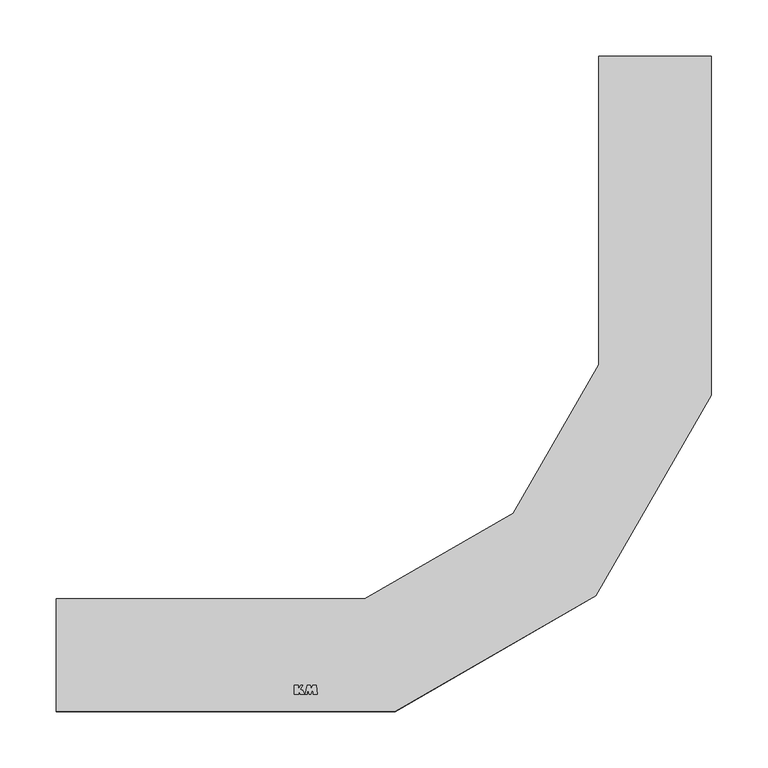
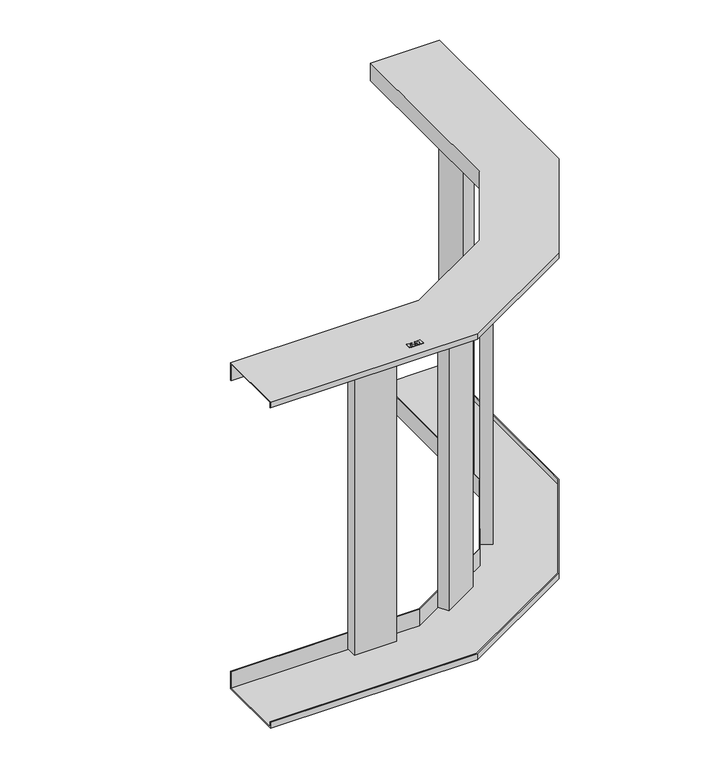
"""IFC4 building model written with IfcOpenShell, lengths in millimetres: cable carrier fitting geometry, КМ Профиль L Угол вертикальный внешний «Быстрый монтаж» : Угол вертикальный внешний «Быстрый монтаж»."""

import ifcopenshell
import ifcopenshell.guid

model = None  # the IFC model being written
_history = None  # IfcOwnerHistory: only IFC2X3 demands one
_inside = {}  # id of a spatial element -> (the spatial element, [elements in it])
_under = {}  # id of a project, library or spatial element -> (it, [spatial elements below it])
_declared = {}  # id of a project -> (the project, [libraries it declares])
_typed = {}  # id of a type object -> (the type object, [elements of that type])
_made_of = {}  # id of a material, layer set ... -> (it, [elements and type objects made of it])


def new_model(schema):
    """Start an empty IFC model of exactly this schema.

    Asked for "IFC4X3", IfcOpenShell would pick the latest addendum, in which some entities
    have other attributes; the version numbers below select the first issue.
    IFC2X3 requires an IfcOwnerHistory on every rooted entity: one is made here for all.
    """
    global model, _history
    if schema == "IFC4X3":
        model = ifcopenshell.file(schema_version=(4, 3, 0, 0))
    else:
        model = ifcopenshell.file(schema=schema)
    _inside.clear()
    _under.clear()
    _declared.clear()
    _typed.clear()
    _made_of.clear()
    _history = None
    if model.schema == "IFC2X3":
        org = make("IfcOrganization", Name="unknown")
        user = make(
            "IfcPersonAndOrganization",
            ThePerson=make("IfcPerson", FamilyName="unknown"),
            TheOrganization=org,
        )
        app = make(
            "IfcApplication",
            ApplicationDeveloper=org,
            Version="unknown",
            ApplicationFullName="unknown",
            ApplicationIdentifier="unknown",
        )
        _history = make(
            "IfcOwnerHistory",
            OwningUser=user,
            OwningApplication=app,
            ChangeAction="ADDED",
            CreationDate=0,
        )
    return model


def make(cls, **values):
    """One entity of the class cls with the attributes given. An attribute that is None is left unset."""
    return model.create_entity(
        cls, **{name: value for name, value in values.items() if value is not None}
    )


def rooted(cls, **values):
    """An entity with a GlobalId (a new one), such as an element, a storey or a relation."""
    return make(cls, GlobalId=ifcopenshell.guid.new(), OwnerHistory=_history, **values)


def si_unit(unit_type, name, prefix=None):
    """IfcSIUnit, for example si_unit("LENGTHUNIT", "METRE", prefix="MILLI")."""
    return make("IfcSIUnit", UnitType=unit_type, Prefix=prefix, Name=name)


def assignment(units):
    """IfcUnitAssignment: the units of a project."""
    return None if units is None else make("IfcUnitAssignment", Units=units)


def point(xyz):
    """IfcCartesianPoint."""
    return None if xyz is None else make("IfcCartesianPoint", Coordinates=xyz)


def direction(xyz):
    """IfcDirection."""
    return None if xyz is None else make("IfcDirection", DirectionRatios=xyz)


def frame(location, z_axis=None, x_axis=None):
    """IfcAxis2Placement3D, a coordinate frame: its origin and axes. An axis left out is left unset."""
    return make(
        "IfcAxis2Placement3D",
        Location=point(location),
        Axis=direction(z_axis),
        RefDirection=direction(x_axis),
    )


def origin():
    """The frame at (0, 0, 0) with its axes left unset."""
    return frame((0.0, 0.0, 0.0))


def place(relative_to, where):
    """IfcLocalPlacement: puts the frame where relative to a parent placement (None: the world)."""
    return make(
        "IfcLocalPlacement", PlacementRelTo=relative_to, RelativePlacement=where
    )


def context(
    kind, dimensions, precision=None, world=None, true_north=None, identifier=None
):
    """IfcGeometricRepresentationContext, for example the 3D "Model" context."""
    return make(
        "IfcGeometricRepresentationContext",
        ContextIdentifier=identifier,
        ContextType=kind,
        CoordinateSpaceDimension=dimensions,
        Precision=precision,
        WorldCoordinateSystem=world,
        TrueNorth=true_north,
    )


def project(units=None, contexts=None):
    """IfcProject with its units and contexts."""
    return rooted(
        "IfcProject",
        Name="project",
        RepresentationContexts=contexts,
        UnitsInContext=assignment(units),
    )


def spatial(cls, under=None, at=None, **own):
    """A site, building, storey or space (cls), placed at a placement, below another one or the project."""
    s = rooted(cls, ObjectPlacement=at, **own)
    if under is not None:
        _under.setdefault(under.id(), (under, []))[1].append(s)
    return s


def polyline(points):
    """IfcPolyline through the points."""
    return make("IfcPolyline", Points=[point(p) for p in points])


def outline(outer, holes=None, kind="AREA"):
    """IfcArbitraryClosedProfileDef: a profile drawn as a closed curve; with holes, ...WithVoids."""
    if holes is None:
        return make("IfcArbitraryClosedProfileDef", ProfileType=kind, OuterCurve=outer)
    return make(
        "IfcArbitraryProfileDefWithVoids",
        ProfileType=kind,
        OuterCurve=outer,
        InnerCurves=holes,
    )


def extrude(swept, where, along, depth):
    """IfcExtrudedAreaSolid: the profile swept, set in the frame where, extruded along a direction by depth."""
    return make(
        "IfcExtrudedAreaSolid",
        SweptArea=swept,
        Position=where,
        ExtrudedDirection=direction(along),
        Depth=depth,
    )


def faces_of(points, faces, orient=None, outer=None):
    """IfcFace entities. A face is a list of loops; a loop is a list of indices into points, from 0.

    orient and outer hold one flag for each loop. By default every Orientation is true, the
    first loop of a face is its IfcFaceOuterBound and the others are IfcFaceBound.
    """
    made = []
    for i, loops in enumerate(faces):
        bounds = []
        for j, loop in enumerate(loops):
            is_outer = j == 0 if outer is None else outer[i][j]
            bounds.append(
                make(
                    "IfcFaceOuterBound" if is_outer else "IfcFaceBound",
                    Bound=make("IfcPolyLoop", Polygon=[points[k] for k in loop]),
                    Orientation=True if orient is None else orient[i][j],
                )
            )
        made.append(make("IfcFace", Bounds=bounds))
    return made


def faceted_brep(points, faces, orient=None, outer=None, voids=None):
    """IfcFacetedBrep: a solid bounded by flat faces; with voids (closed shells), ...WithVoids."""
    shared = [point(p) for p in points]
    hull = make("IfcClosedShell", CfsFaces=faces_of(shared, faces, orient, outer))
    if voids is None:
        return make("IfcFacetedBrep", Outer=hull)
    return make(
        "IfcFacetedBrepWithVoids",
        Outer=hull,
        Voids=[
            make(cls, CfsFaces=faces_of(shared, fs, o, b)) for cls, fs, o, b in voids
        ],
    )


def shape(context_of_items, identifier, shape_type, items):
    """IfcShapeRepresentation: the items that make up one representation, for example the "Body"."""
    return make(
        "IfcShapeRepresentation",
        ContextOfItems=context_of_items,
        RepresentationIdentifier=identifier,
        RepresentationType=shape_type,
        Items=items,
    )


def source(mapping_origin, context_of_items, identifier, shape_type, items):
    """IfcRepresentationMap: a shape defined once, which mapped items show again and again."""
    return make(
        "IfcRepresentationMap",
        MappingOrigin=mapping_origin,
        MappedRepresentation=shape(context_of_items, identifier, shape_type, items),
    )


def transform(
    local_origin,
    x_axis=None,
    y_axis=None,
    z_axis=None,
    scale=None,
    scale2=None,
    scale3=None,
    uniform=True,
):
    """IfcCartesianTransformationOperator3D, or its non-uniform kind. x_axis, y_axis, z_axis: its Axis1, 2, 3."""
    if uniform:
        return make(
            "IfcCartesianTransformationOperator3D",
            Axis1=direction(x_axis),
            Axis2=direction(y_axis),
            LocalOrigin=point(local_origin),
            Scale=scale,
            Axis3=direction(z_axis),
        )
    return make(
        "IfcCartesianTransformationOperator3DnonUniform",
        Axis1=direction(x_axis),
        Axis2=direction(y_axis),
        LocalOrigin=point(local_origin),
        Scale=scale,
        Axis3=direction(z_axis),
        Scale2=scale2,
        Scale3=scale3,
    )


def mapped(mapping_source, mapping_target):
    """IfcMappedItem: shows the shape of a source again, moved by a transform."""
    return make(
        "IfcMappedItem", MappingSource=mapping_source, MappingTarget=mapping_target
    )


def made_of(thing, what):
    """Note that an element or type object is made of a material, layer set ...; save() writes the relation."""
    if what is not None:
        _made_of.setdefault(what.id(), (what, []))[1].append(thing)
    return thing


def element(
    cls,
    number,
    at=None,
    inside=None,
    cuts=None,
    type_object=None,
    material=None,
    context=None,
    identifier="Body",
    shape_type=None,
    held_by="IfcProductDefinitionShape",
    body=None,
    shapes=None,
    **own,
):
    """One element of the class cls, such as IfcWall. Its Tag is "e" and its number.

    at: its placement. inside: the storey or other place that contains it. cuts: it is an
    opening in that element (IfcRelVoidsElement). A single representation is given by context,
    identifier, shape_type and body (its items); several are given by shapes. held_by: the class
    of the entity that holds the representations. save() writes the other relations.
    """
    e = rooted(cls, Tag="e%d" % number, ObjectPlacement=at, **own)
    if body is not None:
        shapes = [shape(context, identifier, shape_type, body)]
    if shapes is not None:
        e.Representation = make(held_by, Representations=shapes)
    if inside is not None:
        _inside.setdefault(inside.id(), (inside, []))[1].append(e)
    if cuts is not None:
        rooted(
            "IfcRelVoidsElement", RelatingBuildingElement=cuts, RelatedOpeningElement=e
        )
    if type_object is not None:
        _typed.setdefault(type_object.id(), (type_object, []))[1].append(e)
    return made_of(e, material)


def aggregate(whole, parts):
    """IfcRelAggregates: a whole, such as a stair, and the parts it consists of."""
    return rooted("IfcRelAggregates", RelatingObject=whole, RelatedObjects=parts)


def save(model, path):
    """Write the relations noted so far, then the file.

    IfcRelAggregates (storeys below a building ...), IfcRelContainedInSpatialStructure (elements
    in a storey), IfcRelDefinesByType, IfcRelAssociatesMaterial and IfcRelDeclares: one each for
    every whole, place, type object, material and project.
    """
    for whole, parts in _under.values():
        aggregate(whole, parts)
    for where, things in _inside.values():
        rooted(
            "IfcRelContainedInSpatialStructure",
            RelatedElements=things,
            RelatingStructure=where,
        )
    for kind, things in _typed.values():
        rooted("IfcRelDefinesByType", RelatedObjects=things, RelatingType=kind)
    for what, things in _made_of.values():
        rooted("IfcRelAssociatesMaterial", RelatedObjects=things, RelatingMaterial=what)
    for by, libraries in _declared.values():
        rooted("IfcRelDeclares", RelatingContext=by, RelatedDefinitions=libraries)
    model.write(path)


def cable_carrier_fitting_8d4a2e80(model_context):
    return source(origin(), model_context, "Body", "SolidModel", [
        extrude(outline(polyline([(-319.2388781, -26.986157), (-315.7316192, -26.986157), (-315.7316192, -30.564509), (-313.8289757, -26.986157), (-311.703011, -26.986157), (-314.1694955, -30.5086619), (-311.9277444, -31.194034), (-310.0604353, -34.737421), (-313.9588467, -34.737421), (-315.6630512, -31.5720802), (-315.6630512, -34.737421), (-319.2388781, -34.737421), (-319.2388781, -26.986157)])), frame((0.0, 0.0, 250.0), z_axis=(0.0, 0.0, 1.0), x_axis=(1.0, 0.0, 0.0)), (0.0, 0.0, 1.0), 0.8),
        extrude(outline(polyline([(-307.9962759, -34.737421), (-309.8943395, -34.737421), (-308.0740589, -26.9647569), (-305.0433304, -26.9647569), (-304.2768297, -30.0390232), (-303.2555223, -26.9623682), (-300.0615674, -26.9623682), (-298.8700699, -34.7429915), (-302.7725105, -34.7429915), (-303.2500032, -30.0541919), (-304.7300717, -34.7434681), (-306.2045824, -34.7434681), (-307.6126012, -30.0696135), (-307.9962759, -34.737421)])), frame((0.0, 0.0, 250.0), z_axis=(0.0, 0.0, 1.0), x_axis=(1.0, 0.0, 0.0)), (0.0, 0.0, 1.0), 0.8),
        extrude(outline(polyline([(-299.5, 48.8), (-299.5, 32.8), (-360.5, 32.8), (-360.5, 48.8), (-299.5, 48.8)])), frame((0.0, 0.0, -247.6), z_axis=(0.0, 0.0, 1.0), x_axis=(1.0, 0.0, 0.0)), (0.0, 0.0, 1.0), 495.2),
        extrude(outline(polyline([(-164.2297817, 102.0568664), (-156.2297817, 88.20046), (-209.0573313, 57.70046), (-217.0573313, 71.5568664), (-164.2297817, 102.0568664)])), frame((0.0, 0.0, -247.6), z_axis=(0.0, 0.0, 1.0), x_axis=(1.0, 0.0, 0.0)), (0.0, 0.0, 1.0), 495.2),
        extrude(outline(polyline([(-57.70046, 209.0573313), (-88.20046, 156.2297817), (-102.0568664, 164.2297817), (-71.5568664, 217.0573313), (-57.70046, 209.0573313)])), frame((0.0, 0.0, -247.6), z_axis=(0.0, 0.0, 1.0), x_axis=(1.0, 0.0, 0.0)), (0.0, 0.0, 1.0), 495.2),
        extrude(outline(polyline([(-32.8, 360.5), (-32.8, 299.5), (-48.8, 299.5), (-48.8, 360.5), (-32.8, 360.5)])), frame((0.0, 0.0, -247.6), z_axis=(0.0, 0.0, 1.0), x_axis=(1.0, 0.0, 0.0)), (0.0, 0.0, 1.0), 495.2),
        faceted_brep([(-530.0, -50.0, 250.0), (-530.0, 50.0, 250.0), (-530.0, 50.0, 223.0), (-530.0, 48.8, 223.0), (-530.0, 48.8, 248.8), (-530.0, -48.8, 248.8), (-530.0, -48.8, 241.0), (-530.0, -50.0, 241.0), (-230.0, -50.0, 250.0), (-52.4871131, 52.4871131, 250.0), (50.0, 230.0, 250.0), (50.0, 530.0, 250.0), (-50.0, 530.0, 250.0), (-50.0, 256.7949192, 250.0), (-125.6921938, 125.6921938, 250.0), (-256.7949192, 50.0, 250.0), (-256.7949192, 50.0, 223.0), (-230.321539, -48.8, 241.0), (-53.365574, 53.365574, 241.0), (48.8, 230.321539, 241.0), (48.8, 530.0, 241.0), (50.0, 530.0, 241.0), (50.0, 230.0, 241.0), (-52.4871131, 52.4871131, 241.0), (-230.0, -50.0, 241.0), (-125.6921938, 125.6921938, 223.0), (-50.0, 256.7949192, 223.0), (48.8, 530.0, 248.8), (-48.8, 530.0, 248.8), (-48.8, 530.0, 223.0), (-50.0, 530.0, 223.0), (-48.8, 256.4733802, 223.0), (-124.8137328, 124.8137328, 223.0), (-256.4733802, 48.8, 223.0), (-256.4733802, 48.8, 248.8), (-124.8137328, 124.8137328, 248.8), (-48.8, 256.4733802, 248.8), (48.8, 230.321539, 248.8), (-53.365574, 53.365574, 248.8), (-230.321539, -48.8, 248.8)], [[[0, 1, 2, 3, 4, 5, 6, 7]], [[1, 0, 8, 9, 10, 11, 12, 13, 14, 15]], [[2, 1, 15, 16]], [[7, 6, 17, 18, 19, 20, 21, 22, 23, 24]], [[0, 7, 24, 8]], [[16, 15, 14, 25]], [[8, 24, 23, 9]], [[25, 14, 13, 26]], [[9, 23, 22, 10]], [[11, 21, 20, 27, 28, 29, 30, 12]], [[26, 13, 12, 30]], [[10, 22, 21, 11]], [[3, 2, 16, 25, 26, 30, 29, 31, 32, 33]], [[4, 3, 33, 34]], [[5, 4, 34, 35, 36, 28, 27, 37, 38, 39]], [[6, 5, 39, 17]], [[34, 33, 32, 35]], [[17, 39, 38, 18]], [[35, 32, 31, 36]], [[18, 38, 37, 19]], [[36, 31, 29, 28]], [[19, 37, 27, 20]]]),
        faceted_brep([(-530.0, -50.0, -241.0), (-530.0, -48.8, -241.0), (-530.0, -48.8, -248.8), (-530.0, 48.8, -248.8), (-530.0, 48.8, -223.0), (-530.0, 50.0, -223.0), (-530.0, 50.0, -250.0), (-530.0, -50.0, -250.0), (-230.0, -50.0, -241.0), (-52.4871131, 52.4871131, -241.0), (50.0, 230.0, -241.0), (50.0, 530.0, -241.0), (48.8, 530.0, -241.0), (48.8, 230.321539, -241.0), (-53.365574, 53.365574, -241.0), (-230.321539, -48.8, -241.0), (-256.7949192, 50.0, -223.0), (-256.7949192, 50.0, -250.0), (-125.6921938, 125.6921938, -250.0), (-50.0, 256.7949192, -250.0), (-50.0, 530.0, -250.0), (50.0, 530.0, -250.0), (50.0, 230.0, -250.0), (-52.4871131, 52.4871131, -250.0), (-230.0, -50.0, -250.0), (-125.6921938, 125.6921938, -223.0), (-50.0, 256.7949192, -223.0), (-50.0, 530.0, -223.0), (-48.8, 530.0, -223.0), (-48.8, 530.0, -248.8), (48.8, 530.0, -248.8), (-230.321539, -48.8, -248.8), (-53.365574, 53.365574, -248.8), (48.8, 230.321539, -248.8), (-48.8, 256.4733802, -248.8), (-124.8137328, 124.8137328, -248.8), (-256.4733802, 48.8, -248.8), (-256.4733802, 48.8, -223.0), (-124.8137328, 124.8137328, -223.0), (-48.8, 256.4733802, -223.0)], [[[0, 1, 2, 3, 4, 5, 6, 7]], [[1, 0, 8, 9, 10, 11, 12, 13, 14, 15]], [[6, 5, 16, 17]], [[7, 6, 17, 18, 19, 20, 21, 22, 23, 24]], [[0, 7, 24, 8]], [[17, 16, 25, 18]], [[8, 24, 23, 9]], [[18, 25, 26, 19]], [[9, 23, 22, 10]], [[11, 21, 20, 27, 28, 29, 30, 12]], [[19, 26, 27, 20]], [[10, 22, 21, 11]], [[2, 1, 15, 31]], [[3, 2, 31, 32, 33, 30, 29, 34, 35, 36]], [[4, 3, 36, 37]], [[5, 4, 37, 38, 39, 28, 27, 26, 25, 16]], [[31, 15, 14, 32]], [[37, 36, 35, 38]], [[32, 14, 13, 33]], [[38, 35, 34, 39]], [[33, 13, 12, 30]], [[39, 34, 29, 28]]]),
    ])


if __name__ == "__main__":
    model = new_model("IFC4")
    model_context = context("Model", 3, world=origin())
    ifc_project = project(units=[si_unit("LENGTHUNIT", "METRE", prefix="MILLI")], contexts=[model_context])
    site = spatial("IfcSite", under=ifc_project)
    building = spatial("IfcBuilding", under=site)
    placement = place(None, origin())
    cable_carrier_fitting_shape = cable_carrier_fitting_8d4a2e80(model_context)
    element("IfcCableCarrierFitting", 1, ObjectType="КМ Профиль L Угол вертикальный внешний «Быстрый монтаж» : Угол вертикальный внешний «Быстрый монтаж»", at=placement, inside=building, context=model_context, shape_type="MappedRepresentation", body=[
        mapped(cable_carrier_fitting_shape, transform((0.0, 0.0, 0.0), x_axis=(1.0, 0.0, 0.0), y_axis=(0.0, 1.0, 0.0), z_axis=(0.0, 0.0, 1.0))),
    ])
    save(model, "model.ifc")
